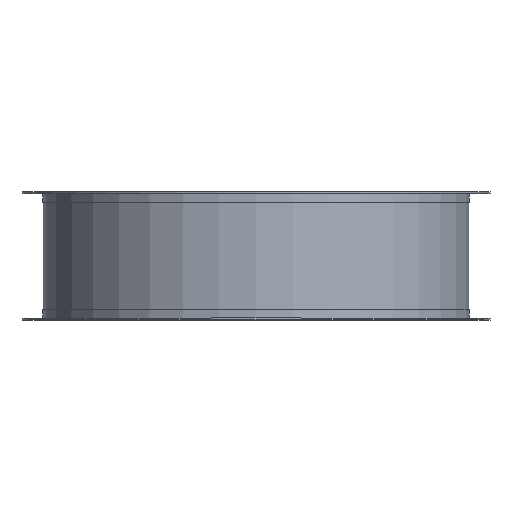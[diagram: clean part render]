
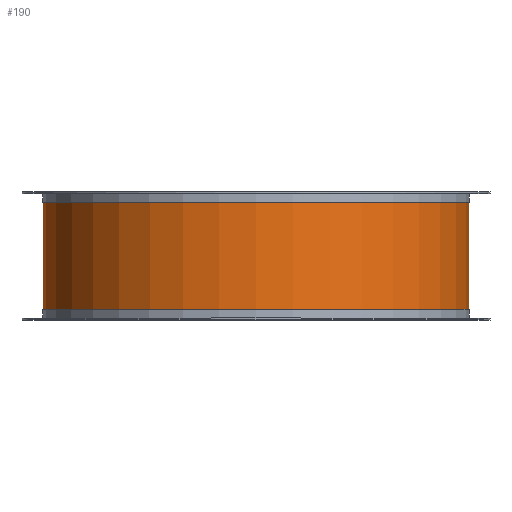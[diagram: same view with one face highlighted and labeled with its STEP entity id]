
A CAD part, top view. The second image highlights one B-rep face of the part: STEP entity #190.
In plain terms, the highlighted cylindrical face has radius 505 mm (diameter 1010 mm), a partial arc.
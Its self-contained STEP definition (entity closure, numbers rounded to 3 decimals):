
#190=ADVANCED_FACE('',(#414),#415,.T.);
#414=FACE_OUTER_BOUND('',#629,.T.);
#415=CYLINDRICAL_SURFACE('',#630,505.0);
#629=EDGE_LOOP('',(#1137,#1138,#1139,#1140));
#630=AXIS2_PLACEMENT_3D('',#1141,#1142,#1143);
#1137=ORIENTED_EDGE('',*,*,#1145,.T.);
#1138=ORIENTED_EDGE('',*,*,#1302,.T.);
#1139=ORIENTED_EDGE('',*,*,#1147,.T.);
#1140=ORIENTED_EDGE('',*,*,#1341,.T.);
#1141=CARTESIAN_POINT('',(0.0,152.0,0.0));
#1142=DIRECTION('',(-0.0,1.0,0.0));
#1143=DIRECTION('',(1.0,0.0,0.0));
#1145=EDGE_CURVE('',#1345,#1346,#1347,.T.);
#1147=EDGE_CURVE('',#1350,#1348,#1351,.T.);
#1302=EDGE_CURVE('',#1346,#1350,#1598,.T.);
#1341=EDGE_CURVE('',#1348,#1345,#1637,.T.);
#1345=VERTEX_POINT('',#1641);
#1346=VERTEX_POINT('',#1642);
#1347=LINE('',#1643,#1644);
#1348=VERTEX_POINT('',#1645);
#1350=VERTEX_POINT('',#1647);
#1351=LINE('',#1648,#1649);
#1598=CIRCLE('',#1942,505.0);
#1637=CIRCLE('',#1981,505.0);
#1641=CARTESIAN_POINT('',(505.0,25.0,0.));
#1642=CARTESIAN_POINT('',(505.0,279.0,0.));
#1643=CARTESIAN_POINT('',(505.0,152.0,0.));
#1644=VECTOR('',#1984,1.0);
#1645=CARTESIAN_POINT('',(-505.0,25.0,0.));
#1647=CARTESIAN_POINT('',(-505.0,279.0,0.));
#1648=CARTESIAN_POINT('',(-505.0,152.0,0.));
#1649=VECTOR('',#1988,1.0);
#1942=AXIS2_PLACEMENT_3D('',#2245,#2246,#2247);
#1981=AXIS2_PLACEMENT_3D('',#2317,#2318,#2319);
#1984=DIRECTION('',(0.0,1.0,0.0));
#1988=DIRECTION('',(-0.0,-1.0,-0.0));
#2245=CARTESIAN_POINT('',(0.0,279.0,0.0));
#2246=DIRECTION('',(0.0,-1.0,0.));
#2247=DIRECTION('',(1.0,0.0,0.0));
#2317=CARTESIAN_POINT('',(0.0,25.0,0.0));
#2318=DIRECTION('',(-0.0,1.0,0.0));
#2319=DIRECTION('',(1.0,0.0,0.0));
